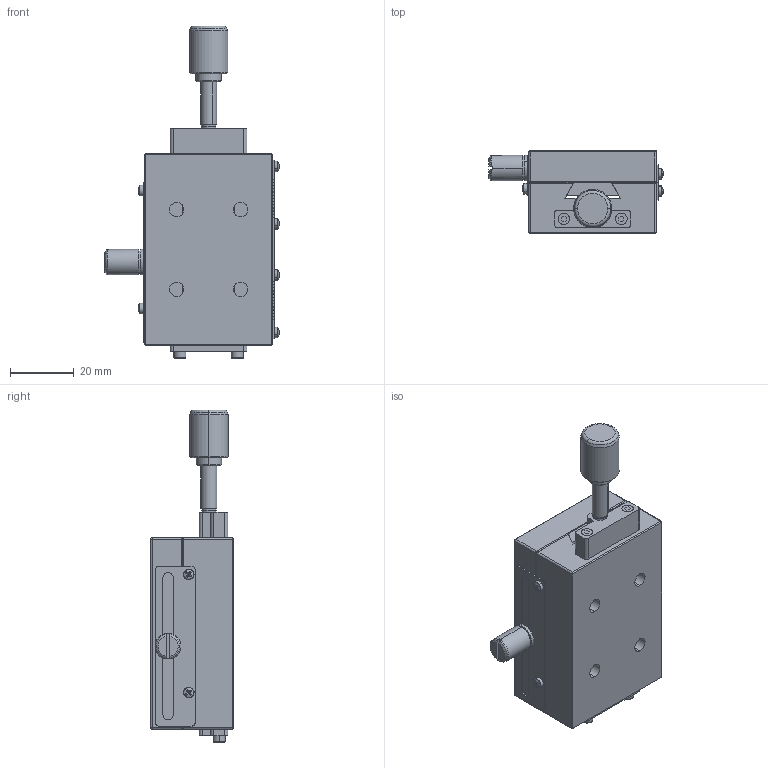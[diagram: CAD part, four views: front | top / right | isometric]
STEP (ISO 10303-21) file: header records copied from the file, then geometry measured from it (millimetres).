
FILE_DESCRIPTION (( 'STEP AP203' ), '1' );
FILE_NAME ('MC1A-46S(«¬¿ý).STEP', '2014-11-10T03:52:57', ( '123' ), ( '' ), 'SwSTEP 2.0', 'SolidWorks 2014', '' );
FILE_SCHEMA (( 'CONFIG_CONTROL_DESIGN' ));
Length unit declared in the file: millimetre
Products named in the file (3): Group1^MC1A-46S(型錄); Group2^MC1A-46S(型錄); MC1A-46S(型錄)
Assembly tree (2 placements, depth 2):
  MC1A-46S(型錄)
    Group1^MC1A-46S(型錄)
    Group2^MC1A-46S(型錄)
Bounding box: 54.57 x 26 x 104 mm (x, y, z)
Volume: 61599.9 mm3; surface area: 22986.2 mm2
Topology: 2 solids, 2 shells, 1491 faces, 3989 edges, 2584 vertices
Faces by surface type: plane 927, bspline 279, cylinder 146, cone 103, torus 20, sphere 16
Entity records: 63332 total; most frequent: CARTESIAN_POINT 27791, ORIENTED_EDGE 7938, DIRECTION 6236, EDGE_CURVE 3969, LINE 2670, VECTOR 2670, VERTEX_POINT 2584, AXIS2_PLACEMENT_3D 1783
